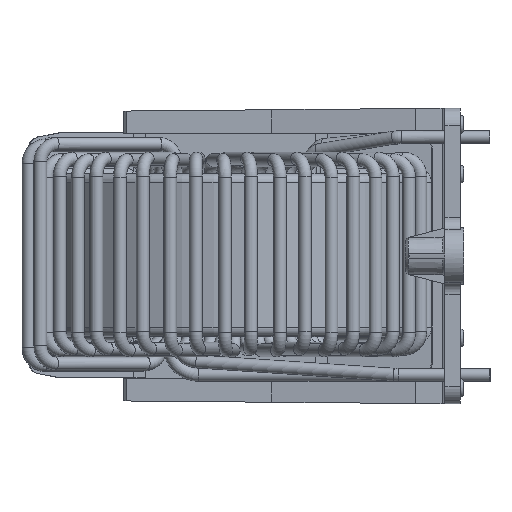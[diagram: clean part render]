
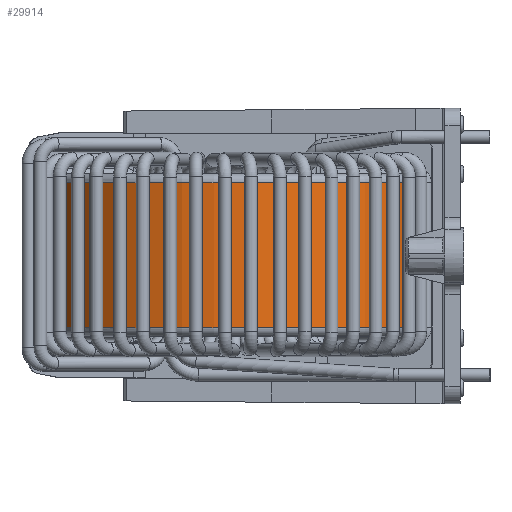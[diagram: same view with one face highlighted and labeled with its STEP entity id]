
A CAD part, left-side view. The second image highlights one B-rep face of the part: STEP entity #29914.
In plain terms, the highlighted cylindrical face has radius 33.6 mm (diameter 67.2 mm), a partial arc.
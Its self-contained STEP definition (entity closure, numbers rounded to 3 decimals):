
#29508=CARTESIAN_POINT('',(-4.847,33.248,26.3));
#29509=VERTEX_POINT('',#29508);
#29535=CARTESIAN_POINT('',(-4.847,33.248,1.5));
#29536=VERTEX_POINT('',#29535);
#29544=CARTESIAN_POINT('',(-4.847,33.248,1.5));
#29545=DIRECTION('',(0.0,0.0,1.0));
#29546=VECTOR('',#29545,24.8);
#29547=LINE('',#29544,#29546);
#29548=EDGE_CURVE('',#29536,#29509,#29547,.T.);
#29868=CARTESIAN_POINT('',(-4.847,-33.248,26.3));
#29869=VERTEX_POINT('',#29868);
#29870=CARTESIAN_POINT('',(0.0,0.0,26.3));
#29871=DIRECTION('',(0.0,0.0,1.0));
#29872=DIRECTION('',(-1.0,0.0,0.0));
#29873=AXIS2_PLACEMENT_3D('',#29870,#29871,#29872);
#29874=CIRCLE('',#29873,33.6);
#29875=EDGE_CURVE('',#29509,#29869,#29874,.T.);
#29890=CARTESIAN_POINT('',(0.0,0.0,0.0));
#29891=DIRECTION('',(0.0,0.0,1.0));
#29892=DIRECTION('',(-1.0,0.0,0.0));
#29893=AXIS2_PLACEMENT_3D('',#29890,#29891,#29892);
#29894=CYLINDRICAL_SURFACE('',#29893,33.6);
#29895=ORIENTED_EDGE('',*,*,#29548,.F.);
#29896=CARTESIAN_POINT('',(-4.847,-33.248,1.5));
#29897=VERTEX_POINT('',#29896);
#29898=CARTESIAN_POINT('',(0.0,0.0,1.5));
#29899=DIRECTION('',(0.0,0.0,-1.0));
#29900=DIRECTION('',(-1.0,0.0,0.0));
#29901=AXIS2_PLACEMENT_3D('',#29898,#29899,#29900);
#29902=CIRCLE('',#29901,33.6);
#29903=EDGE_CURVE('',#29897,#29536,#29902,.T.);
#29904=ORIENTED_EDGE('',*,*,#29903,.F.);
#29905=CARTESIAN_POINT('',(-4.847,-33.248,26.3));
#29906=DIRECTION('',(0.0,0.0,-1.0));
#29907=VECTOR('',#29906,24.8);
#29908=LINE('',#29905,#29907);
#29909=EDGE_CURVE('',#29869,#29897,#29908,.T.);
#29910=ORIENTED_EDGE('',*,*,#29909,.F.);
#29911=ORIENTED_EDGE('',*,*,#29875,.F.);
#29912=EDGE_LOOP('',(#29895,#29904,#29910,#29911));
#29913=FACE_OUTER_BOUND('',#29912,.T.);
#29914=ADVANCED_FACE('',(#29913),#29894,.T.);
